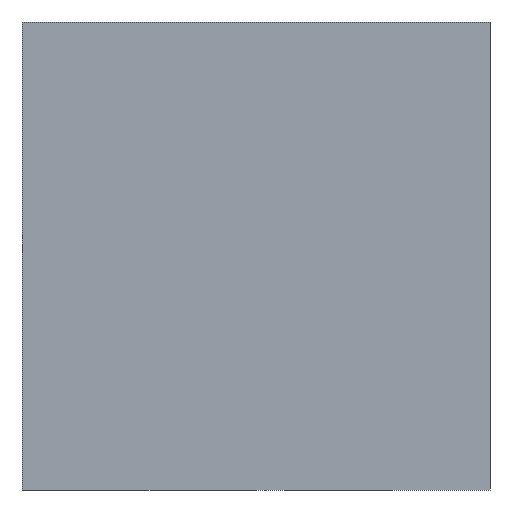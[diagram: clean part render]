
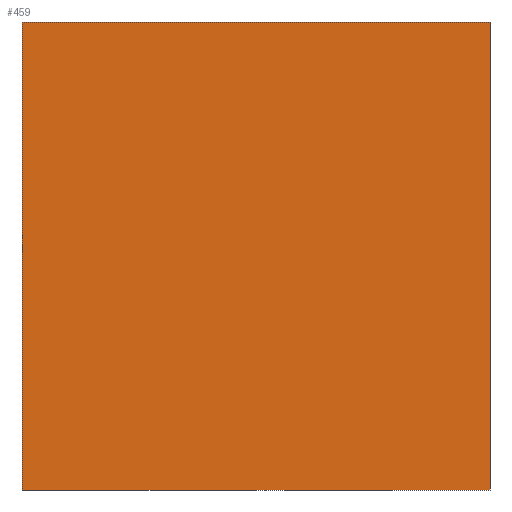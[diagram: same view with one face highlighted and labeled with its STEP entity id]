
A CAD part, left-side view. The second image highlights one B-rep face of the part: STEP entity #459.
In plain terms, the highlighted planar face has unit normal (-1, 0, 0).
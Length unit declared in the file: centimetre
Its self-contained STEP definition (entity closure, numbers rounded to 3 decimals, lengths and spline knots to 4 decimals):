
#3 = CARTESIAN_POINT ( 'NONE',  ( 0., 1000., 0. ) ) ;
#28 = DIRECTION ( 'NONE',  ( 1., 0., 0. ) ) ;
#56 = LINE ( 'NONE', #119, #86 ) ;
#76 = LINE ( 'NONE', #408, #251 ) ;
#79 = PLANE ( 'NONE',  #571 ) ;
#86 = VECTOR ( 'NONE', #308, 100. ) ;
#119 = CARTESIAN_POINT ( 'NONE',  ( 0., 0., 1000. ) ) ;
#123 = LINE ( 'NONE', #584, #400 ) ;
#190 = EDGE_CURVE ( 'NONE', #205, #227, #76, .T. ) ;
#192 = ORIENTED_EDGE ( 'NONE', *, *, #190, .T. ) ;
#205 = VERTEX_POINT ( 'NONE', #224 ) ;
#219 = DIRECTION ( 'NONE',  ( 0., -1., 0. ) ) ;
#222 = CARTESIAN_POINT ( 'NONE',  ( 0., 1000., 1000. ) ) ;
#224 = CARTESIAN_POINT ( 'NONE',  ( 0., 1000., 1000. ) ) ;
#227 = VERTEX_POINT ( 'NONE', #3 ) ;
#238 = CARTESIAN_POINT ( 'NONE',  ( 0., 0., 0. ) ) ;
#251 = VECTOR ( 'NONE', #367, 100. ) ;
#264 = FACE_OUTER_BOUND ( 'NONE', #303, .T. ) ;
#303 = EDGE_LOOP ( 'NONE', ( #613, #356, #541, #192 ) ) ;
#308 = DIRECTION ( 'NONE',  ( 0., 0., -1. ) ) ;
#356 = ORIENTED_EDGE ( 'NONE', *, *, #593, .F. ) ;
#358 = CARTESIAN_POINT ( 'NONE',  ( 0., 1000., 0. ) ) ;
#364 = DIRECTION ( 'NONE',  ( 0., 0., -1. ) ) ;
#365 = EDGE_CURVE ( 'NONE', #205, #434, #123, .T. ) ;
#367 = DIRECTION ( 'NONE',  ( 0., 0., -1. ) ) ;
#387 = VERTEX_POINT ( 'NONE', #238 ) ;
#400 = VECTOR ( 'NONE', #219, 100. ) ;
#408 = CARTESIAN_POINT ( 'NONE',  ( 0., 1000., 1000. ) ) ;
#434 = VERTEX_POINT ( 'NONE', #511 ) ;
#459 = ADVANCED_FACE ( 'NONE', ( #264 ), #79, .F. ) ;
#472 = EDGE_CURVE ( 'NONE', #227, #387, #596, .T. ) ;
#511 = CARTESIAN_POINT ( 'NONE',  ( 0., 0., 1000. ) ) ;
#534 = DIRECTION ( 'NONE',  ( 0., -1., 0. ) ) ;
#541 = ORIENTED_EDGE ( 'NONE', *, *, #365, .F. ) ;
#571 = AXIS2_PLACEMENT_3D ( 'NONE', #222, #28, #364 ) ;
#584 = CARTESIAN_POINT ( 'NONE',  ( 0., 1000., 1000. ) ) ;
#585 = VECTOR ( 'NONE', #534, 100. ) ;
#593 = EDGE_CURVE ( 'NONE', #434, #387, #56, .T. ) ;
#596 = LINE ( 'NONE', #358, #585 ) ;
#613 = ORIENTED_EDGE ( 'NONE', *, *, #472, .T. ) ;
